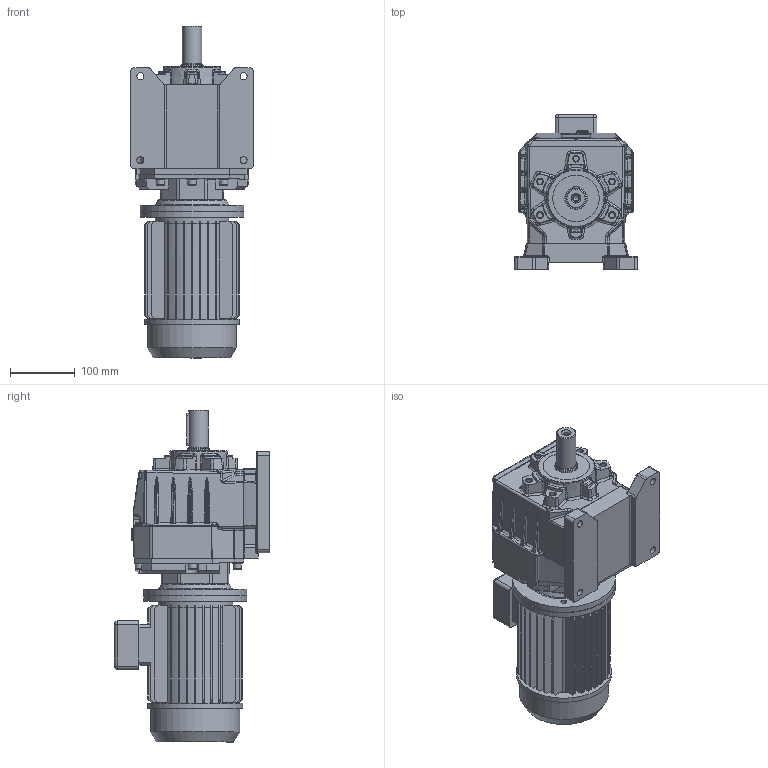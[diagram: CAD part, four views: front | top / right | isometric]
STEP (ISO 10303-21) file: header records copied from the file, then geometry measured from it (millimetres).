
FILE_DESCRIPTION( ( 'Unknown' ), '1' );
FILE_NAME( 'E:/services/configuratordownloads/customers/HYDROMEC/COASSIALI/download/3965EEADC1C39AAF41BB51FA679FCA1F/STEP/3965EEADC1C39AAF41BB51FA679FCA1F.3d.stp', 'Unknown', ( 'Unknown' ), ( 'Unknown' ), 'PSStep 10.1', 'Unknown', ' ' );
FILE_SCHEMA( ( 'AUTOMOTIVE_DESIGN { 1 0 10303 214 1 1 1 1 }' ) );
Length unit declared in the file: millimetre
Products named in the file (1): C518800
Bounding box: 190 x 240.27 x 514.4 mm (x, y, z)
Volume: 8550785.5 mm3; surface area: 582273.6 mm2
Topology: 1 solids, 32 shells, 1629 faces, 4013 edges, 2507 vertices
Faces by surface type: plane 824, cylinder 405, bspline 215, cone 83, torus 70, sphere 20, revolution 8, extrusion 4
Full cylindrical faces by diameter (mm): 4.917 x6, 6 x6, 6.5 x1, 7.262 x6, 8 x1, 8.376 x11, 8.5 x8, 9 x4, 9.5 x8, 10 x6, 10.106 x8, 10.5 x1, 11 x4, 11.3 x1, 11.445 x2, 12.75 x8, 13 x7, 13.5 x1, 18 x1, 19 x1, 20 x1, 22 x1, 28.6 x1, 30 x1, 35 x1, 45 x2, 68 x1, 72 x1, 75 x1, 110 x1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
Entity records: 79159 total; most frequent: CARTESIAN_POINT 29437, DIRECTION 7581, ORIENTED_EDGE 7432, EDGE_CURVE 3716, AXIS2_PLACEMENT_3D 2758, VERTEX_POINT 2422, VECTOR 2057, LINE 2053
